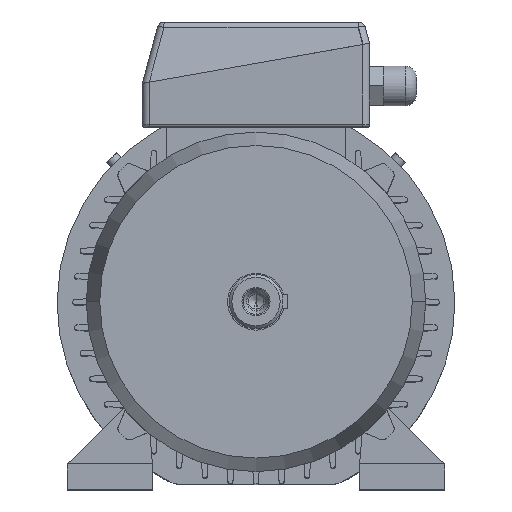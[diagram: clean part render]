
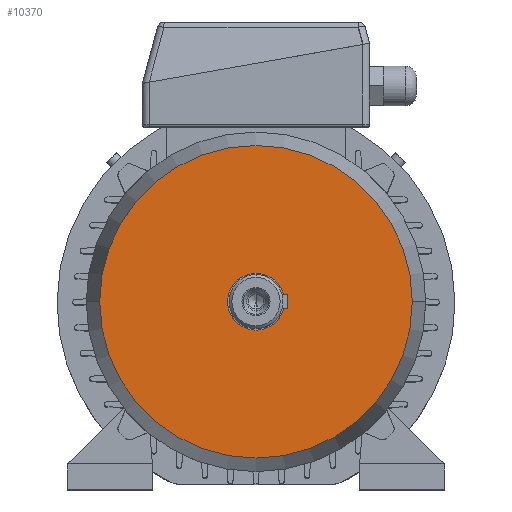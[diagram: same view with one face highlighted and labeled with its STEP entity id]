
A CAD part, top view. The second image highlights one B-rep face of the part: STEP entity #10370.
In plain terms, the highlighted planar face has unit normal (0, 0, 1).
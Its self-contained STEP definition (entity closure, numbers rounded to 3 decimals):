
#2843 = CIRCLE ( 'NONE', #2844, 110. ) ;
#2844 = AXIS2_PLACEMENT_3D ( 'NONE', #2845, #2846, #2847 ) ;
#2845 = CARTESIAN_POINT ( 'NONE',  ( 0., 0., 47. ) ) ;
#2846 = DIRECTION ( 'NONE',  ( 0., 0., -1. ) ) ;
#2847 = DIRECTION ( 'NONE',  ( -1., 0., 0. ) ) ;
#6292 = EDGE_LOOP ( 'NONE', ( #7513, #7659 ) ) ;
#6984 = FACE_OUTER_BOUND ( 'NONE', #6292, .T. ) ;
#6985 = PLANE ( 'NONE',  #6986 ) ;
#6986 = AXIS2_PLACEMENT_3D ( 'NONE', #6987, #6988, #6989 ) ;
#6987 = CARTESIAN_POINT ( 'NONE',  ( 0., 110., 47. ) ) ;
#6988 = DIRECTION ( 'NONE',  ( 0., 0., 1. ) ) ;
#6989 = DIRECTION ( 'NONE',  ( 1., 0., 0. ) ) ;
#7513 = ORIENTED_EDGE ( 'NONE', *, *, #13552, .F. ) ;
#7659 = ORIENTED_EDGE ( 'NONE', *, *, #7888, .F. ) ;
#7888 = EDGE_CURVE ( 'NONE', #13694, #14146, #2843, .T. ) ;
#10370 = ADVANCED_FACE ( 'NONE', ( #6984 ), #6985, .T. ) ;
#10972 = CIRCLE ( 'NONE', #10973, 110. ) ;
#10973 = AXIS2_PLACEMENT_3D ( 'NONE', #10974, #10975, #10976 ) ;
#10974 = CARTESIAN_POINT ( 'NONE',  ( 0., 0., 47. ) ) ;
#10975 = DIRECTION ( 'NONE',  ( 0., 0., -1. ) ) ;
#10976 = DIRECTION ( 'NONE',  ( -1., 0., 0. ) ) ;
#11347 = CARTESIAN_POINT ( 'NONE',  ( 110., 0., 47. ) ) ;
#12318 = CARTESIAN_POINT ( 'NONE',  ( -110., 0., 47. ) ) ;
#13552 = EDGE_CURVE ( 'NONE', #14146, #13694, #10972, .T. ) ;
#13694 = VERTEX_POINT ( 'NONE', #11347 ) ;
#14146 = VERTEX_POINT ( 'NONE', #12318 ) ;
